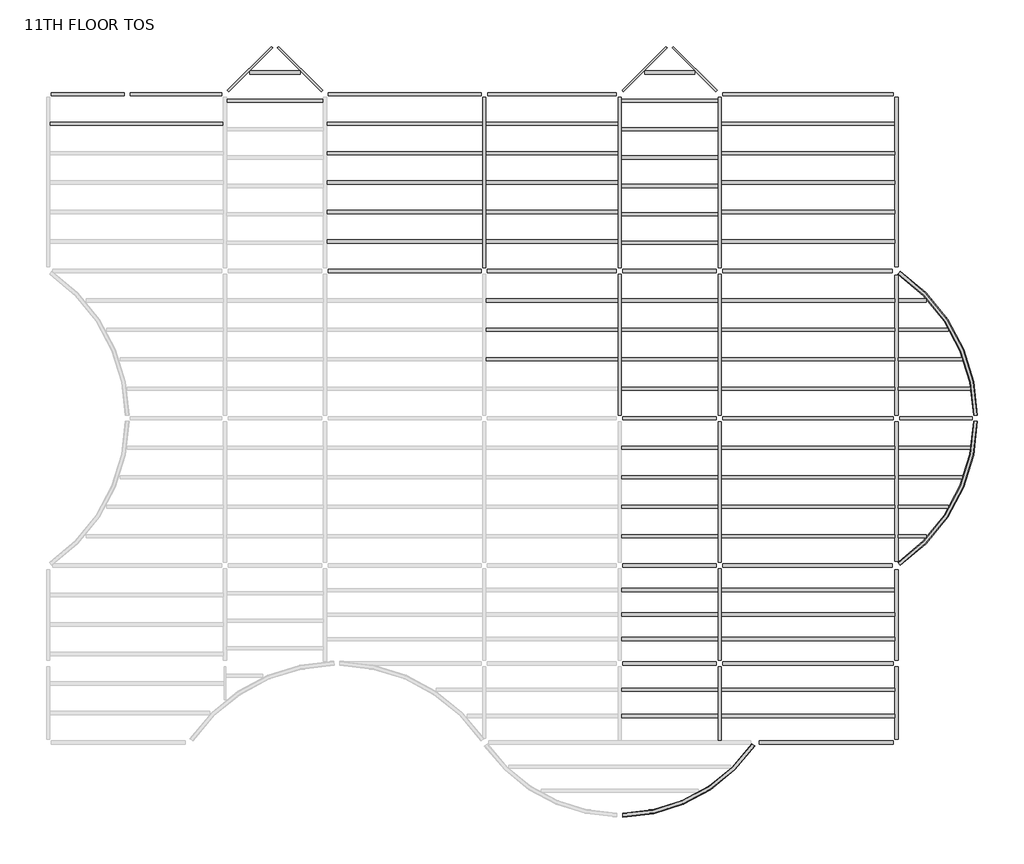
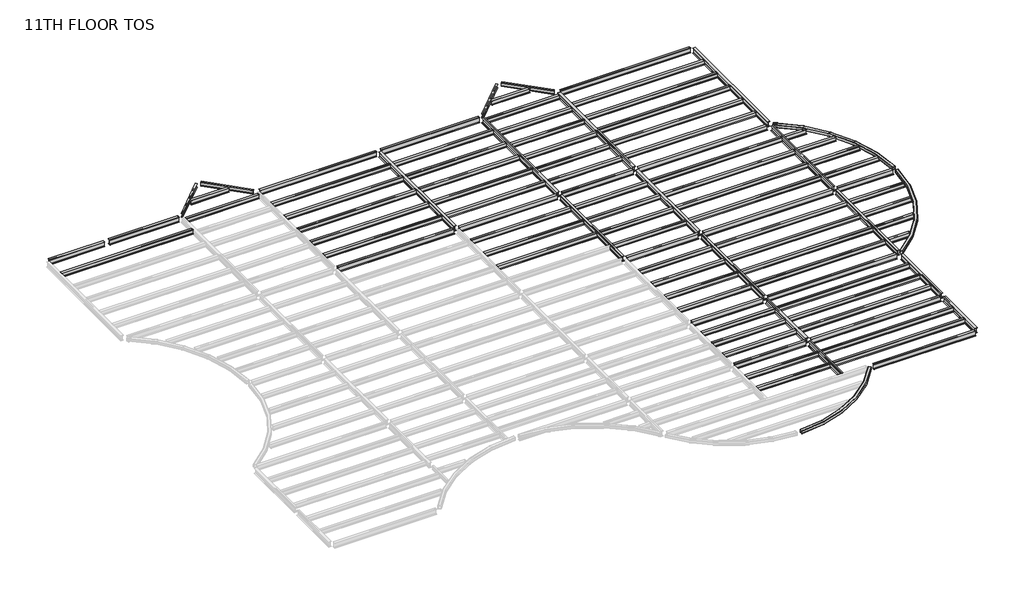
# One storey, part 2 of 2: 99 beams.
"""IFC4 building model written with IfcOpenShell, lengths in millimetres."""

from ifc_helpers import new_model, si_unit, origin, place, context, project, spatial, transform, mapped, element, save
from components import m_hss_square_hss203_2x203_2x9_5_28e91a4e, m_hss_square_hss203_2x203_2x9_5_f31329aa, m_hss_square_hss203_2x203_2x9_5_63507dff, ub_universal_beams_ub254x102x28_7812688d, ub_universal_beams_ub254x102x28_4a38c177, ub_universal_beams_ub305x165x40_c4d0385b, ub_universal_beams_ub305x165x40_19965e16, ub_universal_beams_ub305x165x40_d3abc31d, ub_universal_beams_ub305x165x40_0c73730f, ub_universal_beams_ub305x165x40_2a963f0c, ub_universal_beams_ub305x165x40_9ce7f2ee, ub_universal_beams_ub305x165x40_d184adfd, ub_universal_beams_ub305x165x40_bc7dc938, ub_universal_beams_ub305x165x40_b4233d25, ub_universal_beams_ub356x171x51_c708c058, ub_universal_beams_ub356x171x51_ef72dcdd, ub_universal_beams_ub356x171x51_10b3c54f, ub_universal_beams_ub356x171x51_4c9fd821, ub_universal_beams_ub356x171x51_d1a87c3c, ub_universal_beams_ub356x171x51_fa75724b, ub_universal_beams_ub356x171x51_68db896e, ub_universal_beams_ub356x171x51_c634c4a6, ub_universal_beams_ub356x171x51_995f1560, ub_universal_beams_ub356x171x51_dfc36663, ub_universal_beams_ub356x171x51_11d6b780, ub_universal_beams_ub356x171x51_76b2d20b, ub_universal_beams_ub356x171x51_145ecd4b, ub_universal_beams_ub356x171x51_c7dff8d2, ub_universal_beams_ub356x171x51_8a345439, ub_universal_beams_ub356x171x51_6da510e9, ub_universal_beams_ub356x171x51_e97f8d2e, ub_universal_beams_ub356x171x51_a38b99de, ub_universal_beams_ub356x171x51_d8f4cdde, ub_universal_beams_ub356x171x51_475301e6, ub_universal_beams_ub356x171x51_c03c70fb, ub_universal_beams_ub356x171x51_741bae58

model = new_model("IFC4")

# Units and contexts
model_context = context("Model", 3, world=origin())
ifc_project = project(units=[si_unit("LENGTHUNIT", "METRE", prefix="MILLI")], contexts=[model_context])

# Site, building, storey
site = spatial("IfcSite", under=ifc_project)
building = spatial("IfcBuilding", under=site)
storey = spatial("IfcBuildingStorey", under=building, Name="11TH FLOOR TOS", Elevation=50139.6)

# Beams
placement = place(None, origin())
m_hss_square_hss203_2x203_2x9_5_shape = m_hss_square_hss203_2x203_2x9_5_28e91a4e(model_context)
element("IfcBeam", 1, ObjectType="M_HSS Square : HSS203.2X203.2X9.5", at=placement, inside=storey, context=model_context, shape_type="MappedRepresentation", body=[
    mapped(m_hss_square_hss203_2x203_2x9_5_shape, transform((44027.575, 24539.575, 50038.1), x_axis=(0.8332810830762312, -0.5528495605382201, 0.0), y_axis=(0.5528495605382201, 0.8332810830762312, 0.0), z_axis=(0.0, 0.0, 1.0))),
])
m_hss_square_hss203_2x203_2x9_5_2_shape = m_hss_square_hss203_2x203_2x9_5_f31329aa(model_context)
element("IfcBeam", 2, ObjectType="M_HSS Square : HSS203.2X203.2X9.5", at=placement, inside=storey, context=model_context, shape_type="MappedRepresentation", body=[
    mapped(m_hss_square_hss203_2x203_2x9_5_2_shape, transform((44027.575, 9299.575, 50038.1), x_axis=(0.8332810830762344, 0.5528495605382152, 0.0), y_axis=(-0.5528495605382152, 0.8332810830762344, 0.0), z_axis=(0.0, 0.0, 1.0))),
])
m_hss_square_hss203_2x203_2x9_5_3_shape = m_hss_square_hss203_2x203_2x9_5_63507dff(model_context)
element("IfcBeam", 3, ObjectType="M_HSS Square : HSS203.2X203.2X9.5", at=placement, inside=storey, context=model_context, shape_type="MappedRepresentation", body=[
    mapped(m_hss_square_hss203_2x203_2x9_5_3_shape, transform((36716.575, 155.575, 50038.1), x_axis=(-0.5530174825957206, -0.8331696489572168, 0.0), y_axis=(0.8331696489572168, -0.5530174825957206, 0.0), z_axis=(0.0, 0.0, 1.0))),
])
ub_universal_beams_ub254x102x28_shape = ub_universal_beams_ub254x102x28_7812688d(model_context)
element("IfcBeam", 4, ObjectType="UB-Universal Beams : UB254x102x28", at=placement, inside=storey, context=model_context, shape_type="MappedRepresentation", body=[
    mapped(ub_universal_beams_ub254x102x28_shape, transform((10592.575, 34976.575, 50009.4), x_axis=(0.7071067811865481, 0.7071067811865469, 0.0), y_axis=(-0.7071067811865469, 0.7071067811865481, 0.0), z_axis=(0.0, 0.0, 1.0))),
])
element("IfcBeam", 5, ObjectType="UB-Universal Beams : UB254x102x28", at=placement, inside=storey, context=model_context, shape_type="MappedRepresentation", body=[
    mapped(ub_universal_beams_ub254x102x28_shape, transform((31004.575, 34976.575, 50009.4), x_axis=(0.7071067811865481, 0.7071067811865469, 0.0), y_axis=(-0.7071067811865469, 0.7071067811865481, 0.0), z_axis=(0.0, 0.0, 1.0))),
])
ub_universal_beams_ub254x102x28_2_shape = ub_universal_beams_ub254x102x28_4a38c177(model_context)
element("IfcBeam", 6, ObjectType="UB-Universal Beams : UB254x102x28", at=placement, inside=storey, context=model_context, shape_type="MappedRepresentation", body=[
    mapped(ub_universal_beams_ub254x102x28_2_shape, transform((13178.575, 34976.575, 50009.4), x_axis=(0.707106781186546, -0.707106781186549, 0.0), y_axis=(0.707106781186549, 0.707106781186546, 0.0), z_axis=(0.0, 0.0, 1.0))),
])
element("IfcBeam", 7, ObjectType="UB-Universal Beams : UB254x102x28", at=placement, inside=storey, context=model_context, shape_type="MappedRepresentation", body=[
    mapped(ub_universal_beams_ub254x102x28_2_shape, transform((33590.575, 34976.575, 50009.4), x_axis=(0.7071067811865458, -0.7071067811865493, 0.0), y_axis=(0.7071067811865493, 0.7071067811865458, 0.0), z_axis=(0.0, 0.0, 1.0))),
])
ub_universal_beams_ub305x165x40_shape = ub_universal_beams_ub305x165x40_c4d0385b(model_context)
element("IfcBeam", 8, ObjectType="UB-Universal Beams : UB305x165x40", at=placement, inside=storey, context=model_context, shape_type="MappedRepresentation", body=[
    mapped(ub_universal_beams_ub305x165x40_shape, transform((4727.575, 32159.575, 49987.9), x_axis=(1.0, 0.0, 0.0), y_axis=(0.0, 1.0, 0.0), z_axis=(0.0, 0.0, 1.0))),
])
element("IfcBeam", 9, ObjectType="UB-Universal Beams : UB305x165x40", at=placement, inside=storey, context=model_context, shape_type="MappedRepresentation", body=[
    mapped(ub_universal_beams_ub305x165x40_shape, transform((39455.575, 32159.575, 49987.9), x_axis=(1.0, 0.0, 0.0), y_axis=(0.0, 1.0, 0.0), z_axis=(0.0, 0.0, 1.0))),
])
element("IfcBeam", 10, ObjectType="UB-Universal Beams : UB305x165x40", at=placement, inside=storey, context=model_context, shape_type="MappedRepresentation", body=[
    mapped(ub_universal_beams_ub305x165x40_shape, transform((39455.575, 30635.575, 49987.9), x_axis=(1.0, 0.0, 0.0), y_axis=(0.0, 1.0, 0.0), z_axis=(0.0, 0.0, 1.0))),
])
element("IfcBeam", 11, ObjectType="UB-Universal Beams : UB305x165x40", at=placement, inside=storey, context=model_context, shape_type="MappedRepresentation", body=[
    mapped(ub_universal_beams_ub305x165x40_shape, transform((39455.575, 29111.575, 49987.9), x_axis=(1.0, 0.0, 0.0), y_axis=(0.0, 1.0, 0.0), z_axis=(0.0, 0.0, 1.0))),
])
element("IfcBeam", 12, ObjectType="UB-Universal Beams : UB305x165x40", at=placement, inside=storey, context=model_context, shape_type="MappedRepresentation", body=[
    mapped(ub_universal_beams_ub305x165x40_shape, transform((39455.575, 27587.575, 49987.9), x_axis=(1.0, 0.0, 0.0), y_axis=(0.0, 1.0, 0.0), z_axis=(0.0, 0.0, 1.0))),
])
element("IfcBeam", 13, ObjectType="UB-Universal Beams : UB305x165x40", at=placement, inside=storey, context=model_context, shape_type="MappedRepresentation", body=[
    mapped(ub_universal_beams_ub305x165x40_shape, transform((39455.575, 26063.575, 49987.9), x_axis=(1.0, 0.0, 0.0), y_axis=(0.0, 1.0, 0.0), z_axis=(0.0, 0.0, 1.0))),
])
element("IfcBeam", 14, ObjectType="UB-Universal Beams : UB305x165x40", at=placement, inside=storey, context=model_context, shape_type="MappedRepresentation", body=[
    mapped(ub_universal_beams_ub305x165x40_shape, transform((39455.575, 23015.575, 49987.9), x_axis=(1.0, 0.0, 0.0), y_axis=(0.0, 1.0, 0.0), z_axis=(0.0, 0.0, 1.0))),
])
element("IfcBeam", 15, ObjectType="UB-Universal Beams : UB305x165x40", at=placement, inside=storey, context=model_context, shape_type="MappedRepresentation", body=[
    mapped(ub_universal_beams_ub305x165x40_shape, transform((39455.575, 21491.575, 49987.9), x_axis=(1.0, 0.0, 0.0), y_axis=(0.0, 1.0, 0.0), z_axis=(0.0, 0.0, 1.0))),
])
element("IfcBeam", 16, ObjectType="UB-Universal Beams : UB305x165x40", at=placement, inside=storey, context=model_context, shape_type="MappedRepresentation", body=[
    mapped(ub_universal_beams_ub305x165x40_shape, transform((39455.575, 19967.575, 49987.9), x_axis=(1.0, 0.0, 0.0), y_axis=(0.0, 1.0, 0.0), z_axis=(0.0, 0.0, 1.0))),
])
element("IfcBeam", 17, ObjectType="UB-Universal Beams : UB305x165x40", at=placement, inside=storey, context=model_context, shape_type="MappedRepresentation", body=[
    mapped(ub_universal_beams_ub305x165x40_shape, transform((39455.575, 18443.575, 49987.9), x_axis=(1.0, 0.0, 0.0), y_axis=(0.0, 1.0, 0.0), z_axis=(0.0, 0.0, 1.0))),
])
element("IfcBeam", 18, ObjectType="UB-Universal Beams : UB305x165x40", at=placement, inside=storey, context=model_context, shape_type="MappedRepresentation", body=[
    mapped(ub_universal_beams_ub305x165x40_shape, transform((39455.575, 15395.575, 49987.9), x_axis=(1.0, 0.0, 0.0), y_axis=(0.0, 1.0, 0.0), z_axis=(0.0, 0.0, 1.0))),
])
element("IfcBeam", 19, ObjectType="UB-Universal Beams : UB305x165x40", at=placement, inside=storey, context=model_context, shape_type="MappedRepresentation", body=[
    mapped(ub_universal_beams_ub305x165x40_shape, transform((39455.575, 13871.575, 49987.9), x_axis=(1.0, 0.0, 0.0), y_axis=(0.0, 1.0, 0.0), z_axis=(0.0, 0.0, 1.0))),
])
element("IfcBeam", 20, ObjectType="UB-Universal Beams : UB305x165x40", at=placement, inside=storey, context=model_context, shape_type="MappedRepresentation", body=[
    mapped(ub_universal_beams_ub305x165x40_shape, transform((39455.575, 12347.575, 49987.9), x_axis=(1.0, 0.0, 0.0), y_axis=(0.0, 1.0, 0.0), z_axis=(0.0, 0.0, 1.0))),
])
element("IfcBeam", 21, ObjectType="UB-Universal Beams : UB305x165x40", at=placement, inside=storey, context=model_context, shape_type="MappedRepresentation", body=[
    mapped(ub_universal_beams_ub305x165x40_shape, transform((39455.575, 10823.575, 49987.9), x_axis=(1.0, 0.0, 0.0), y_axis=(0.0, 1.0, 0.0), z_axis=(0.0, 0.0, 1.0))),
])
element("IfcBeam", 22, ObjectType="UB-Universal Beams : UB305x165x40", at=placement, inside=storey, context=model_context, shape_type="MappedRepresentation", body=[
    mapped(ub_universal_beams_ub305x165x40_shape, transform((39455.575, 5508.325, 49987.9), x_axis=(-1.0, 0.0, 0.0), y_axis=(0.0, -1.0, 0.0), z_axis=(0.0, 0.0, 1.0))),
])
element("IfcBeam", 23, ObjectType="UB-Universal Beams : UB305x165x40", at=placement, inside=storey, context=model_context, shape_type="MappedRepresentation", body=[
    mapped(ub_universal_beams_ub305x165x40_shape, transform((39455.575, 6772.075, 49987.9), x_axis=(-1.0, 0.0, 0.0), y_axis=(0.0, -1.0, 0.0), z_axis=(0.0, 0.0, 1.0))),
])
element("IfcBeam", 24, ObjectType="UB-Universal Beams : UB305x165x40", at=placement, inside=storey, context=model_context, shape_type="MappedRepresentation", body=[
    mapped(ub_universal_beams_ub305x165x40_shape, transform((39455.575, 8035.825, 49987.9), x_axis=(-1.0, 0.0, 0.0), y_axis=(0.0, -1.0, 0.0), z_axis=(0.0, 0.0, 1.0))),
])
element("IfcBeam", 25, ObjectType="UB-Universal Beams : UB305x165x40", at=placement, inside=storey, context=model_context, shape_type="MappedRepresentation", body=[
    mapped(ub_universal_beams_ub305x165x40_shape, transform((39455.575, 1518.575, 49987.9), x_axis=(-1.0, 0.0, 0.0), y_axis=(0.0, -1.0, 0.0), z_axis=(0.0, 0.0, 1.0))),
])
element("IfcBeam", 26, ObjectType="UB-Universal Beams : UB305x165x40", at=placement, inside=storey, context=model_context, shape_type="MappedRepresentation", body=[
    mapped(ub_universal_beams_ub305x165x40_shape, transform((39455.575, 2881.575, 49987.9), x_axis=(-1.0, 0.0, 0.0), y_axis=(0.0, -1.0, 0.0), z_axis=(0.0, 0.0, 1.0))),
])
ub_universal_beams_ub305x165x40_2_shape = ub_universal_beams_ub305x165x40_19965e16(model_context)
element("IfcBeam", 27, ObjectType="UB-Universal Beams : UB305x165x40", at=placement, inside=storey, context=model_context, shape_type="MappedRepresentation", body=[
    mapped(ub_universal_beams_ub305x165x40_2_shape, transform((11885.575, 34803.325, 49987.9), x_axis=(1.0, 0.0, 0.0), y_axis=(0.0, 1.0, 0.0), z_axis=(0.0, 0.0, 1.0))),
])
element("IfcBeam", 28, ObjectType="UB-Universal Beams : UB305x165x40", at=placement, inside=storey, context=model_context, shape_type="MappedRepresentation", body=[
    mapped(ub_universal_beams_ub305x165x40_2_shape, transform((32297.575, 34803.325, 49987.9), x_axis=(1.0, 0.0, 0.0), y_axis=(0.0, 1.0, 0.0), z_axis=(0.0, 0.0, 1.0))),
])
ub_universal_beams_ub305x165x40_3_shape = ub_universal_beams_ub305x165x40_d3abc31d(model_context)
element("IfcBeam", 29, ObjectType="UB-Universal Beams : UB305x165x40", at=placement, inside=storey, context=model_context, shape_type="MappedRepresentation", body=[
    mapped(ub_universal_beams_ub305x165x40_3_shape, transform((11885.575, 33337.075, 49987.9), x_axis=(1.0, 0.0, 0.0), y_axis=(0.0, 1.0, 0.0), z_axis=(0.0, 0.0, 1.0))),
])
element("IfcBeam", 30, ObjectType="UB-Universal Beams : UB305x165x40", at=placement, inside=storey, context=model_context, shape_type="MappedRepresentation", body=[
    mapped(ub_universal_beams_ub305x165x40_3_shape, transform((32297.575, 33337.075, 49987.9), x_axis=(1.0, 0.0, 0.0), y_axis=(0.0, 1.0, 0.0), z_axis=(0.0, 0.0, 1.0))),
])
element("IfcBeam", 31, ObjectType="UB-Universal Beams : UB305x165x40", at=placement, inside=storey, context=model_context, shape_type="MappedRepresentation", body=[
    mapped(ub_universal_beams_ub305x165x40_3_shape, transform((32297.575, 31870.825, 49987.9), x_axis=(1.0, 0.0, 0.0), y_axis=(0.0, 1.0, 0.0), z_axis=(0.0, 0.0, 1.0))),
])
element("IfcBeam", 32, ObjectType="UB-Universal Beams : UB305x165x40", at=placement, inside=storey, context=model_context, shape_type="MappedRepresentation", body=[
    mapped(ub_universal_beams_ub305x165x40_3_shape, transform((32297.575, 30404.575, 49987.9), x_axis=(1.0, 0.0, 0.0), y_axis=(0.0, 1.0, 0.0), z_axis=(0.0, 0.0, 1.0))),
])
element("IfcBeam", 33, ObjectType="UB-Universal Beams : UB305x165x40", at=placement, inside=storey, context=model_context, shape_type="MappedRepresentation", body=[
    mapped(ub_universal_beams_ub305x165x40_3_shape, transform((32297.575, 28938.325, 49987.9), x_axis=(1.0, 0.0, 0.0), y_axis=(0.0, 1.0, 0.0), z_axis=(0.0, 0.0, 1.0))),
])
element("IfcBeam", 34, ObjectType="UB-Universal Beams : UB305x165x40", at=placement, inside=storey, context=model_context, shape_type="MappedRepresentation", body=[
    mapped(ub_universal_beams_ub305x165x40_3_shape, transform((32297.575, 27472.075, 49987.9), x_axis=(1.0, 0.0, 0.0), y_axis=(0.0, 1.0, 0.0), z_axis=(0.0, 0.0, 1.0))),
])
element("IfcBeam", 35, ObjectType="UB-Universal Beams : UB305x165x40", at=placement, inside=storey, context=model_context, shape_type="MappedRepresentation", body=[
    mapped(ub_universal_beams_ub305x165x40_3_shape, transform((32297.575, 26005.825, 49987.9), x_axis=(1.0, 0.0, 0.0), y_axis=(0.0, 1.0, 0.0), z_axis=(0.0, 0.0, 1.0))),
])
element("IfcBeam", 36, ObjectType="UB-Universal Beams : UB305x165x40", at=placement, inside=storey, context=model_context, shape_type="MappedRepresentation", body=[
    mapped(ub_universal_beams_ub305x165x40_3_shape, transform((32297.575, 1518.575, 49987.9), x_axis=(-1.0, 0.0, 0.0), y_axis=(0.0, -1.0, 0.0), z_axis=(0.0, 0.0, 1.0))),
])
element("IfcBeam", 37, ObjectType="UB-Universal Beams : UB305x165x40", at=placement, inside=storey, context=model_context, shape_type="MappedRepresentation", body=[
    mapped(ub_universal_beams_ub305x165x40_3_shape, transform((32297.575, 2881.575, 49987.9), x_axis=(-1.0, 0.0, 0.0), y_axis=(0.0, -1.0, 0.0), z_axis=(0.0, 0.0, 1.0))),
])
element("IfcBeam", 38, ObjectType="UB-Universal Beams : UB305x165x40", at=placement, inside=storey, context=model_context, shape_type="MappedRepresentation", body=[
    mapped(ub_universal_beams_ub305x165x40_3_shape, transform((32297.575, 5508.325, 49987.9), x_axis=(-1.0, 0.0, 0.0), y_axis=(0.0, -1.0, 0.0), z_axis=(0.0, 0.0, 1.0))),
])
element("IfcBeam", 39, ObjectType="UB-Universal Beams : UB305x165x40", at=placement, inside=storey, context=model_context, shape_type="MappedRepresentation", body=[
    mapped(ub_universal_beams_ub305x165x40_3_shape, transform((32297.575, 6772.075, 49987.9), x_axis=(-1.0, 0.0, 0.0), y_axis=(0.0, -1.0, 0.0), z_axis=(0.0, 0.0, 1.0))),
])
element("IfcBeam", 40, ObjectType="UB-Universal Beams : UB305x165x40", at=placement, inside=storey, context=model_context, shape_type="MappedRepresentation", body=[
    mapped(ub_universal_beams_ub305x165x40_3_shape, transform((32297.575, 8035.825, 49987.9), x_axis=(-1.0, 0.0, 0.0), y_axis=(0.0, -1.0, 0.0), z_axis=(0.0, 0.0, 1.0))),
])
element("IfcBeam", 41, ObjectType="UB-Universal Beams : UB305x165x40", at=placement, inside=storey, context=model_context, shape_type="MappedRepresentation", body=[
    mapped(ub_universal_beams_ub305x165x40_3_shape, transform((32297.575, 15395.575, 49987.9), x_axis=(1.0, 0.0, 0.0), y_axis=(0.0, 1.0, 0.0), z_axis=(0.0, 0.0, 1.0))),
])
element("IfcBeam", 42, ObjectType="UB-Universal Beams : UB305x165x40", at=placement, inside=storey, context=model_context, shape_type="MappedRepresentation", body=[
    mapped(ub_universal_beams_ub305x165x40_3_shape, transform((32297.575, 13871.575, 49987.9), x_axis=(1.0, 0.0, 0.0), y_axis=(0.0, 1.0, 0.0), z_axis=(0.0, 0.0, 1.0))),
])
element("IfcBeam", 43, ObjectType="UB-Universal Beams : UB305x165x40", at=placement, inside=storey, context=model_context, shape_type="MappedRepresentation", body=[
    mapped(ub_universal_beams_ub305x165x40_3_shape, transform((32297.575, 12347.575, 49987.9), x_axis=(1.0, 0.0, 0.0), y_axis=(0.0, 1.0, 0.0), z_axis=(0.0, 0.0, 1.0))),
])
element("IfcBeam", 44, ObjectType="UB-Universal Beams : UB305x165x40", at=placement, inside=storey, context=model_context, shape_type="MappedRepresentation", body=[
    mapped(ub_universal_beams_ub305x165x40_3_shape, transform((32297.575, 10823.575, 49987.9), x_axis=(1.0, 0.0, 0.0), y_axis=(0.0, 1.0, 0.0), z_axis=(0.0, 0.0, 1.0))),
])
element("IfcBeam", 45, ObjectType="UB-Universal Beams : UB305x165x40", at=placement, inside=storey, context=model_context, shape_type="MappedRepresentation", body=[
    mapped(ub_universal_beams_ub305x165x40_3_shape, transform((32297.575, 23015.575, 49987.9), x_axis=(1.0, 0.0, 0.0), y_axis=(0.0, 1.0, 0.0), z_axis=(0.0, 0.0, 1.0))),
])
element("IfcBeam", 46, ObjectType="UB-Universal Beams : UB305x165x40", at=placement, inside=storey, context=model_context, shape_type="MappedRepresentation", body=[
    mapped(ub_universal_beams_ub305x165x40_3_shape, transform((32297.575, 21491.575, 49987.9), x_axis=(1.0, 0.0, 0.0), y_axis=(0.0, 1.0, 0.0), z_axis=(0.0, 0.0, 1.0))),
])
element("IfcBeam", 47, ObjectType="UB-Universal Beams : UB305x165x40", at=placement, inside=storey, context=model_context, shape_type="MappedRepresentation", body=[
    mapped(ub_universal_beams_ub305x165x40_3_shape, transform((32297.575, 19967.575, 49987.9), x_axis=(1.0, 0.0, 0.0), y_axis=(0.0, 1.0, 0.0), z_axis=(0.0, 0.0, 1.0))),
])
element("IfcBeam", 48, ObjectType="UB-Universal Beams : UB305x165x40", at=placement, inside=storey, context=model_context, shape_type="MappedRepresentation", body=[
    mapped(ub_universal_beams_ub305x165x40_3_shape, transform((32297.575, 18443.575, 49987.9), x_axis=(1.0, 0.0, 0.0), y_axis=(0.0, 1.0, 0.0), z_axis=(0.0, 0.0, 1.0))),
])
ub_universal_beams_ub305x165x40_4_shape = ub_universal_beams_ub305x165x40_0c73730f(model_context)
element("IfcBeam", 49, ObjectType="UB-Universal Beams : UB305x165x40", at=placement, inside=storey, context=model_context, shape_type="MappedRepresentation", body=[
    mapped(ub_universal_beams_ub305x165x40_4_shape, transform((18591.075, 32159.575, 49987.9), x_axis=(1.0, 0.0, 0.0), y_axis=(0.0, 1.0, 0.0), z_axis=(0.0, 0.0, 1.0))),
])
element("IfcBeam", 50, ObjectType="UB-Universal Beams : UB305x165x40", at=placement, inside=storey, context=model_context, shape_type="MappedRepresentation", body=[
    mapped(ub_universal_beams_ub305x165x40_4_shape, transform((18591.075, 30635.575, 49987.9), x_axis=(1.0, 0.0, 0.0), y_axis=(0.0, 1.0, 0.0), z_axis=(0.0, 0.0, 1.0))),
])
element("IfcBeam", 51, ObjectType="UB-Universal Beams : UB305x165x40", at=placement, inside=storey, context=model_context, shape_type="MappedRepresentation", body=[
    mapped(ub_universal_beams_ub305x165x40_4_shape, transform((18591.075, 29111.575, 49987.9), x_axis=(1.0, 0.0, 0.0), y_axis=(0.0, 1.0, 0.0), z_axis=(0.0, 0.0, 1.0))),
])
element("IfcBeam", 52, ObjectType="UB-Universal Beams : UB305x165x40", at=placement, inside=storey, context=model_context, shape_type="MappedRepresentation", body=[
    mapped(ub_universal_beams_ub305x165x40_4_shape, transform((18591.075, 27587.575, 49987.9), x_axis=(1.0, 0.0, 0.0), y_axis=(0.0, 1.0, 0.0), z_axis=(0.0, 0.0, 1.0))),
])
element("IfcBeam", 53, ObjectType="UB-Universal Beams : UB305x165x40", at=placement, inside=storey, context=model_context, shape_type="MappedRepresentation", body=[
    mapped(ub_universal_beams_ub305x165x40_4_shape, transform((18591.075, 26063.575, 49987.9), x_axis=(1.0, 0.0, 0.0), y_axis=(0.0, 1.0, 0.0), z_axis=(0.0, 0.0, 1.0))),
])
ub_universal_beams_ub305x165x40_5_shape = ub_universal_beams_ub305x165x40_2a963f0c(model_context)
element("IfcBeam", 54, ObjectType="UB-Universal Beams : UB305x165x40", at=placement, inside=storey, context=model_context, shape_type="MappedRepresentation", body=[
    mapped(ub_universal_beams_ub305x165x40_5_shape, transform((26211.075, 32159.575, 49987.9), x_axis=(1.0, 0.0, 0.0), y_axis=(0.0, 1.0, 0.0), z_axis=(0.0, 0.0, 1.0))),
])
element("IfcBeam", 55, ObjectType="UB-Universal Beams : UB305x165x40", at=placement, inside=storey, context=model_context, shape_type="MappedRepresentation", body=[
    mapped(ub_universal_beams_ub305x165x40_5_shape, transform((26211.075, 30635.575, 49987.9), x_axis=(1.0, 0.0, 0.0), y_axis=(0.0, 1.0, 0.0), z_axis=(0.0, 0.0, 1.0))),
])
element("IfcBeam", 56, ObjectType="UB-Universal Beams : UB305x165x40", at=placement, inside=storey, context=model_context, shape_type="MappedRepresentation", body=[
    mapped(ub_universal_beams_ub305x165x40_5_shape, transform((26211.075, 29111.575, 49987.9), x_axis=(1.0, 0.0, 0.0), y_axis=(0.0, 1.0, 0.0), z_axis=(0.0, 0.0, 1.0))),
])
element("IfcBeam", 57, ObjectType="UB-Universal Beams : UB305x165x40", at=placement, inside=storey, context=model_context, shape_type="MappedRepresentation", body=[
    mapped(ub_universal_beams_ub305x165x40_5_shape, transform((26211.075, 27587.575, 49987.9), x_axis=(1.0, 0.0, 0.0), y_axis=(0.0, 1.0, 0.0), z_axis=(0.0, 0.0, 1.0))),
])
element("IfcBeam", 58, ObjectType="UB-Universal Beams : UB305x165x40", at=placement, inside=storey, context=model_context, shape_type="MappedRepresentation", body=[
    mapped(ub_universal_beams_ub305x165x40_5_shape, transform((26211.075, 26063.575, 49987.9), x_axis=(1.0, 0.0, 0.0), y_axis=(0.0, 1.0, 0.0), z_axis=(0.0, 0.0, 1.0))),
])
element("IfcBeam", 59, ObjectType="UB-Universal Beams : UB305x165x40", at=placement, inside=storey, context=model_context, shape_type="MappedRepresentation", body=[
    mapped(ub_universal_beams_ub305x165x40_5_shape, transform((26211.075, 23015.575, 49987.9), x_axis=(1.0, 0.0, 0.0), y_axis=(0.0, 1.0, 0.0), z_axis=(0.0, 0.0, 1.0))),
])
element("IfcBeam", 60, ObjectType="UB-Universal Beams : UB305x165x40", at=placement, inside=storey, context=model_context, shape_type="MappedRepresentation", body=[
    mapped(ub_universal_beams_ub305x165x40_5_shape, transform((26211.075, 21491.575, 49987.9), x_axis=(1.0, 0.0, 0.0), y_axis=(0.0, 1.0, 0.0), z_axis=(0.0, 0.0, 1.0))),
])
element("IfcBeam", 61, ObjectType="UB-Universal Beams : UB305x165x40", at=placement, inside=storey, context=model_context, shape_type="MappedRepresentation", body=[
    mapped(ub_universal_beams_ub305x165x40_5_shape, transform((26211.075, 19967.575, 49987.9), x_axis=(1.0, 0.0, 0.0), y_axis=(0.0, 1.0, 0.0), z_axis=(0.0, 0.0, 1.0))),
])
ub_universal_beams_ub305x165x40_6_shape = ub_universal_beams_ub305x165x40_9ce7f2ee(model_context)
element("IfcBeam", 62, ObjectType="UB-Universal Beams : UB305x165x40", at=placement, inside=storey, context=model_context, shape_type="MappedRepresentation", body=[
    mapped(ub_universal_beams_ub305x165x40_6_shape, transform((44907.9405309, 23015.575, 49987.9), x_axis=(1.0, 0.0, 0.0), y_axis=(0.0, 1.0, 0.0), z_axis=(0.0, 0.0, 1.0))),
])
element("IfcBeam", 63, ObjectType="UB-Universal Beams : UB305x165x40", at=placement, inside=storey, context=model_context, shape_type="MappedRepresentation", body=[
    mapped(ub_universal_beams_ub305x165x40_6_shape, transform((44907.9405309, 10823.575, 49987.9), x_axis=(1.0, 0.0, 0.0), y_axis=(0.0, 1.0, 0.0), z_axis=(0.0, 0.0, 1.0))),
])
ub_universal_beams_ub305x165x40_7_shape = ub_universal_beams_ub305x165x40_d184adfd(model_context)
element("IfcBeam", 64, ObjectType="UB-Universal Beams : UB305x165x40", at=placement, inside=storey, context=model_context, shape_type="MappedRepresentation", body=[
    mapped(ub_universal_beams_ub305x165x40_7_shape, transform((45459.5874928, 21491.575, 49987.9), x_axis=(1.0, 0.0, 0.0), y_axis=(0.0, 1.0, 0.0), z_axis=(0.0, 0.0, 1.0))),
])
element("IfcBeam", 65, ObjectType="UB-Universal Beams : UB305x165x40", at=placement, inside=storey, context=model_context, shape_type="MappedRepresentation", body=[
    mapped(ub_universal_beams_ub305x165x40_7_shape, transform((45459.5874928, 12347.575, 49987.9), x_axis=(1.0, 0.0, 0.0), y_axis=(0.0, 1.0, 0.0), z_axis=(0.0, 0.0, 1.0))),
])
ub_universal_beams_ub305x165x40_8_shape = ub_universal_beams_ub305x165x40_bc7dc938(model_context)
element("IfcBeam", 66, ObjectType="UB-Universal Beams : UB305x165x40", at=placement, inside=storey, context=model_context, shape_type="MappedRepresentation", body=[
    mapped(ub_universal_beams_ub305x165x40_8_shape, transform((45810.6153272, 19967.575, 49987.9), x_axis=(1.0, 0.0, 0.0), y_axis=(0.0, 1.0, 0.0), z_axis=(0.0, 0.0, 1.0))),
])
element("IfcBeam", 67, ObjectType="UB-Universal Beams : UB305x165x40", at=placement, inside=storey, context=model_context, shape_type="MappedRepresentation", body=[
    mapped(ub_universal_beams_ub305x165x40_8_shape, transform((45810.6153272, 13871.575, 49987.9), x_axis=(1.0, 0.0, 0.0), y_axis=(0.0, 1.0, 0.0), z_axis=(0.0, 0.0, 1.0))),
])
ub_universal_beams_ub305x165x40_9_shape = ub_universal_beams_ub305x165x40_b4233d25(model_context)
element("IfcBeam", 68, ObjectType="UB-Universal Beams : UB305x165x40", at=placement, inside=storey, context=model_context, shape_type="MappedRepresentation", body=[
    mapped(ub_universal_beams_ub305x165x40_9_shape, transform((46008.1318611, 18443.575, 49987.9), x_axis=(1.0, 0.0, 0.0), y_axis=(0.0, 1.0, 0.0), z_axis=(0.0, 0.0, 1.0))),
])
element("IfcBeam", 69, ObjectType="UB-Universal Beams : UB305x165x40", at=placement, inside=storey, context=model_context, shape_type="MappedRepresentation", body=[
    mapped(ub_universal_beams_ub305x165x40_9_shape, transform((46008.1318611, 15395.575, 49987.9), x_axis=(1.0, 0.0, 0.0), y_axis=(0.0, 1.0, 0.0), z_axis=(0.0, 0.0, 1.0))),
])
ub_universal_beams_ub356x171x51_shape = ub_universal_beams_ub356x171x51_c708c058(model_context)
element("IfcBeam", 70, ObjectType="UB-Universal Beams : UB356x171x51", at=placement, inside=storey, context=model_context, shape_type="MappedRepresentation", body=[
    mapped(ub_universal_beams_ub356x171x51_shape, transform((2200.075, 33683.575, 49962.1), x_axis=(1.0, 0.0, 0.0), y_axis=(0.0, 1.0, 0.0), z_axis=(0.0, 0.0, 1.0))),
])
ub_universal_beams_ub356x171x51_2_shape = ub_universal_beams_ub356x171x51_ef72dcdd(model_context)
element("IfcBeam", 71, ObjectType="UB-Universal Beams : UB356x171x51", at=placement, inside=storey, context=model_context, shape_type="MappedRepresentation", body=[
    mapped(ub_universal_beams_ub356x171x51_2_shape, transform((6772.075, 33683.575, 49962.1), x_axis=(1.0, 0.0, 0.0), y_axis=(0.0, 1.0, 0.0), z_axis=(0.0, 0.0, 1.0))),
])
element("IfcBeam", 72, ObjectType="UB-Universal Beams : UB356x171x51", at=placement, inside=storey, context=model_context, shape_type="MappedRepresentation", body=[
    mapped(ub_universal_beams_ub356x171x51_2_shape, transform((34883.575, 6772.075, 49962.1), x_axis=(0.0, -1.0, 0.0), y_axis=(1.0, 0.0, 0.0), z_axis=(0.0, 0.0, 1.0))),
])
ub_universal_beams_ub356x171x51_3_shape = ub_universal_beams_ub356x171x51_10b3c54f(model_context)
element("IfcBeam", 73, ObjectType="UB-Universal Beams : UB356x171x51", at=placement, inside=storey, context=model_context, shape_type="MappedRepresentation", body=[
    mapped(ub_universal_beams_ub356x171x51_3_shape, transform((18591.075, 33683.575, 49962.1), x_axis=(1.0, 0.0, 0.0), y_axis=(0.0, 1.0, 0.0), z_axis=(0.0, 0.0, 1.0))),
])
ub_universal_beams_ub356x171x51_4_shape = ub_universal_beams_ub356x171x51_4c9fd821(model_context)
element("IfcBeam", 74, ObjectType="UB-Universal Beams : UB356x171x51", at=placement, inside=storey, context=model_context, shape_type="MappedRepresentation", body=[
    mapped(ub_universal_beams_ub356x171x51_4_shape, transform((26211.075, 33683.575, 49962.1), x_axis=(1.0, 0.0, 0.0), y_axis=(0.0, 1.0, 0.0), z_axis=(0.0, 0.0, 1.0))),
])
ub_universal_beams_ub356x171x51_5_shape = ub_universal_beams_ub356x171x51_d1a87c3c(model_context)
element("IfcBeam", 75, ObjectType="UB-Universal Beams : UB356x171x51", at=placement, inside=storey, context=model_context, shape_type="MappedRepresentation", body=[
    mapped(ub_universal_beams_ub356x171x51_5_shape, transform((39455.575, 33683.575, 49962.1), x_axis=(1.0, 0.0, 0.0), y_axis=(0.0, 1.0, 0.0), z_axis=(0.0, 0.0, 1.0))),
])
ub_universal_beams_ub356x171x51_6_shape = ub_universal_beams_ub356x171x51_fa75724b(model_context)
element("IfcBeam", 76, ObjectType="UB-Universal Beams : UB356x171x51", at=placement, inside=storey, context=model_context, shape_type="MappedRepresentation", body=[
    mapped(ub_universal_beams_ub356x171x51_6_shape, transform((44027.575, 29111.575, 49962.1), x_axis=(0.0, -1.0, 0.0), y_axis=(1.0, 0.0, 0.0), z_axis=(0.0, 0.0, 1.0))),
])
ub_universal_beams_ub356x171x51_7_shape = ub_universal_beams_ub356x171x51_68db896e(model_context)
element("IfcBeam", 77, ObjectType="UB-Universal Beams : UB356x171x51", at=placement, inside=storey, context=model_context, shape_type="MappedRepresentation", body=[
    mapped(ub_universal_beams_ub356x171x51_7_shape, transform((44027.575, 6772.075, 49962.1), x_axis=(0.0, -1.0, 0.0), y_axis=(1.0, 0.0, 0.0), z_axis=(0.0, 0.0, 1.0))),
])
ub_universal_beams_ub356x171x51_8_shape = ub_universal_beams_ub356x171x51_c634c4a6(model_context)
element("IfcBeam", 78, ObjectType="UB-Universal Beams : UB356x171x51", at=placement, inside=storey, context=model_context, shape_type="MappedRepresentation", body=[
    mapped(ub_universal_beams_ub356x171x51_8_shape, transform((44027.575, 2200.075, 49962.1), x_axis=(0.0, -1.0, 0.0), y_axis=(1.0, 0.0, 0.0), z_axis=(0.0, 0.0, 1.0))),
])
ub_universal_beams_ub356x171x51_9_shape = ub_universal_beams_ub356x171x51_995f1560(model_context)
element("IfcBeam", 79, ObjectType="UB-Universal Beams : UB356x171x51", at=placement, inside=storey, context=model_context, shape_type="MappedRepresentation", body=[
    mapped(ub_universal_beams_ub356x171x51_9_shape, transform((40372.075, 155.575, 49962.1), x_axis=(-1.0, 0.0, 0.0), y_axis=(0.0, -1.0, 0.0), z_axis=(0.0, 0.0, 1.0))),
])
ub_universal_beams_ub356x171x51_10_shape = ub_universal_beams_ub356x171x51_dfc36663(model_context)
element("IfcBeam", 80, ObjectType="UB-Universal Beams : UB356x171x51", at=placement, inside=storey, context=model_context, shape_type="MappedRepresentation", body=[
    mapped(ub_universal_beams_ub356x171x51_10_shape, transform((46072.075, 16919.575, 49962.1), x_axis=(1.0, 0.0, 0.0), y_axis=(0.0, 1.0, 0.0), z_axis=(0.0, 0.0, 1.0))),
])
ub_universal_beams_ub356x171x51_11_shape = ub_universal_beams_ub356x171x51_11d6b780(model_context)
element("IfcBeam", 81, ObjectType="UB-Universal Beams : UB356x171x51", at=placement, inside=storey, context=model_context, shape_type="MappedRepresentation", body=[
    mapped(ub_universal_beams_ub356x171x51_11_shape, transform((32297.575, 24539.575, 49962.1), x_axis=(1.0, 0.0, 0.0), y_axis=(0.0, 1.0, 0.0), z_axis=(0.0, 0.0, 1.0))),
])
element("IfcBeam", 82, ObjectType="UB-Universal Beams : UB356x171x51", at=placement, inside=storey, context=model_context, shape_type="MappedRepresentation", body=[
    mapped(ub_universal_beams_ub356x171x51_11_shape, transform((32297.575, 9299.575, 49962.1), x_axis=(-1.0, 0.0, 0.0), y_axis=(0.0, -1.0, 0.0), z_axis=(0.0, 0.0, 1.0))),
])
element("IfcBeam", 83, ObjectType="UB-Universal Beams : UB356x171x51", at=placement, inside=storey, context=model_context, shape_type="MappedRepresentation", body=[
    mapped(ub_universal_beams_ub356x171x51_11_shape, transform((32297.575, 16919.575, 49962.1), x_axis=(1.0, 0.0, 0.0), y_axis=(0.0, 1.0, 0.0), z_axis=(0.0, 0.0, 1.0))),
])
element("IfcBeam", 84, ObjectType="UB-Universal Beams : UB356x171x51", at=placement, inside=storey, context=model_context, shape_type="MappedRepresentation", body=[
    mapped(ub_universal_beams_ub356x171x51_11_shape, transform((32297.575, 4244.575, 49962.1), x_axis=(-1.0, 0.0, 0.0), y_axis=(0.0, -1.0, 0.0), z_axis=(0.0, 0.0, 1.0))),
])
ub_universal_beams_ub356x171x51_12_shape = ub_universal_beams_ub356x171x51_76b2d20b(model_context)
element("IfcBeam", 85, ObjectType="UB-Universal Beams : UB356x171x51", at=placement, inside=storey, context=model_context, shape_type="MappedRepresentation", body=[
    mapped(ub_universal_beams_ub356x171x51_12_shape, transform((18591.075, 24539.575, 49962.1), x_axis=(1.0, 0.0, 0.0), y_axis=(0.0, 1.0, 0.0), z_axis=(0.0, 0.0, 1.0))),
])
ub_universal_beams_ub356x171x51_13_shape = ub_universal_beams_ub356x171x51_145ecd4b(model_context)
element("IfcBeam", 86, ObjectType="UB-Universal Beams : UB356x171x51", at=placement, inside=storey, context=model_context, shape_type="MappedRepresentation", body=[
    mapped(ub_universal_beams_ub356x171x51_13_shape, transform((26211.075, 24539.575, 49962.1), x_axis=(1.0, 0.0, 0.0), y_axis=(0.0, 1.0, 0.0), z_axis=(0.0, 0.0, 1.0))),
])
ub_universal_beams_ub356x171x51_14_shape = ub_universal_beams_ub356x171x51_c7dff8d2(model_context)
element("IfcBeam", 87, ObjectType="UB-Universal Beams : UB356x171x51", at=placement, inside=storey, context=model_context, shape_type="MappedRepresentation", body=[
    mapped(ub_universal_beams_ub356x171x51_14_shape, transform((39455.575, 24539.575, 49962.1), x_axis=(1.0, 0.0, 0.0), y_axis=(0.0, 1.0, 0.0), z_axis=(0.0, 0.0, 1.0))),
])
ub_universal_beams_ub356x171x51_15_shape = ub_universal_beams_ub356x171x51_8a345439(model_context)
element("IfcBeam", 88, ObjectType="UB-Universal Beams : UB356x171x51", at=placement, inside=storey, context=model_context, shape_type="MappedRepresentation", body=[
    mapped(ub_universal_beams_ub356x171x51_15_shape, transform((44027.575, 20729.575, 49962.1), x_axis=(0.0, -1.0, 0.0), y_axis=(1.0, 0.0, 0.0), z_axis=(0.0, 0.0, 1.0))),
])
ub_universal_beams_ub356x171x51_16_shape = ub_universal_beams_ub356x171x51_6da510e9(model_context)
element("IfcBeam", 89, ObjectType="UB-Universal Beams : UB356x171x51", at=placement, inside=storey, context=model_context, shape_type="MappedRepresentation", body=[
    mapped(ub_universal_beams_ub356x171x51_16_shape, transform((44027.575, 13109.575, 49962.1), x_axis=(0.0, -1.0, 0.0), y_axis=(1.0, 0.0, 0.0), z_axis=(0.0, 0.0, 1.0))),
])
ub_universal_beams_ub356x171x51_17_shape = ub_universal_beams_ub356x171x51_e97f8d2e(model_context)
element("IfcBeam", 90, ObjectType="UB-Universal Beams : UB356x171x51", at=placement, inside=storey, context=model_context, shape_type="MappedRepresentation", body=[
    mapped(ub_universal_beams_ub356x171x51_17_shape, transform((39455.575, 9299.575, 49962.1), x_axis=(-1.0, 0.0, 0.0), y_axis=(0.0, -1.0, 0.0), z_axis=(0.0, 0.0, 1.0))),
])
ub_universal_beams_ub356x171x51_18_shape = ub_universal_beams_ub356x171x51_a38b99de(model_context)
element("IfcBeam", 91, ObjectType="UB-Universal Beams : UB356x171x51", at=placement, inside=storey, context=model_context, shape_type="MappedRepresentation", body=[
    mapped(ub_universal_beams_ub356x171x51_18_shape, transform((34883.575, 20729.575, 49962.1), x_axis=(0.0, -1.0, 0.0), y_axis=(1.0, 0.0, 0.0), z_axis=(0.0, 0.0, 1.0))),
])
element("IfcBeam", 92, ObjectType="UB-Universal Beams : UB356x171x51", at=placement, inside=storey, context=model_context, shape_type="MappedRepresentation", body=[
    mapped(ub_universal_beams_ub356x171x51_18_shape, transform((34883.575, 13109.575, 49962.1), x_axis=(0.0, -1.0, 0.0), y_axis=(1.0, 0.0, 0.0), z_axis=(0.0, 0.0, 1.0))),
])
element("IfcBeam", 93, ObjectType="UB-Universal Beams : UB356x171x51", at=placement, inside=storey, context=model_context, shape_type="MappedRepresentation", body=[
    mapped(ub_universal_beams_ub356x171x51_18_shape, transform((29711.575, 20729.575, 49962.1), x_axis=(0.0, 1.0, 0.0), y_axis=(-1.0, 0.0, 0.0), z_axis=(0.0, 0.0, 1.0))),
])
ub_universal_beams_ub356x171x51_19_shape = ub_universal_beams_ub356x171x51_d8f4cdde(model_context)
element("IfcBeam", 94, ObjectType="UB-Universal Beams : UB356x171x51", at=placement, inside=storey, context=model_context, shape_type="MappedRepresentation", body=[
    mapped(ub_universal_beams_ub356x171x51_19_shape, transform((29711.575, 29111.575, 49962.1), x_axis=(0.0, 1.0, 0.0), y_axis=(-1.0, 0.0, 0.0), z_axis=(0.0, 0.0, 1.0))),
])
ub_universal_beams_ub356x171x51_20_shape = ub_universal_beams_ub356x171x51_475301e6(model_context)
element("IfcBeam", 95, ObjectType="UB-Universal Beams : UB356x171x51", at=placement, inside=storey, context=model_context, shape_type="MappedRepresentation", body=[
    mapped(ub_universal_beams_ub356x171x51_20_shape, transform((39455.575, 16919.575, 49962.1), x_axis=(1.0, 0.0, 0.0), y_axis=(0.0, 1.0, 0.0), z_axis=(0.0, 0.0, 1.0))),
])
element("IfcBeam", 96, ObjectType="UB-Universal Beams : UB356x171x51", at=placement, inside=storey, context=model_context, shape_type="MappedRepresentation", body=[
    mapped(ub_universal_beams_ub356x171x51_20_shape, transform((39455.575, 4244.575, 49962.1), x_axis=(-1.0, 0.0, 0.0), y_axis=(0.0, -1.0, 0.0), z_axis=(0.0, 0.0, 1.0))),
])
ub_universal_beams_ub356x171x51_21_shape = ub_universal_beams_ub356x171x51_c03c70fb(model_context)
element("IfcBeam", 97, ObjectType="UB-Universal Beams : UB356x171x51", at=placement, inside=storey, context=model_context, shape_type="MappedRepresentation", body=[
    mapped(ub_universal_beams_ub356x171x51_21_shape, transform((34883.575, 29111.575, 49962.1), x_axis=(0.0, -1.0, 0.0), y_axis=(1.0, 0.0, 0.0), z_axis=(0.0, 0.0, 1.0))),
])
element("IfcBeam", 98, ObjectType="UB-Universal Beams : UB356x171x51", at=placement, inside=storey, context=model_context, shape_type="MappedRepresentation", body=[
    mapped(ub_universal_beams_ub356x171x51_21_shape, transform((22710.575, 29111.575, 49962.1), x_axis=(0.0, -1.0, 0.0), y_axis=(1.0, 0.0, 0.0), z_axis=(0.0, 0.0, 1.0))),
])
ub_universal_beams_ub356x171x51_22_shape = ub_universal_beams_ub356x171x51_741bae58(model_context)
element("IfcBeam", 99, ObjectType="UB-Universal Beams : UB356x171x51", at=placement, inside=storey, context=model_context, shape_type="MappedRepresentation", body=[
    mapped(ub_universal_beams_ub356x171x51_22_shape, transform((34883.575, 2200.075, 49962.1), x_axis=(0.0, -1.0, 0.0), y_axis=(1.0, 0.0, 0.0), z_axis=(0.0, 0.0, 1.0))),
])

save(model, "model.ifc")
